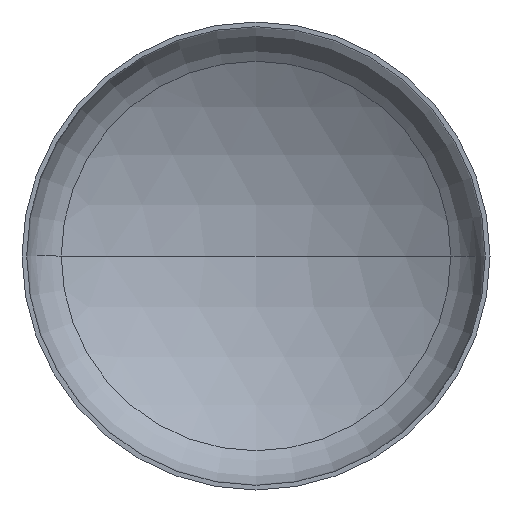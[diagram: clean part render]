
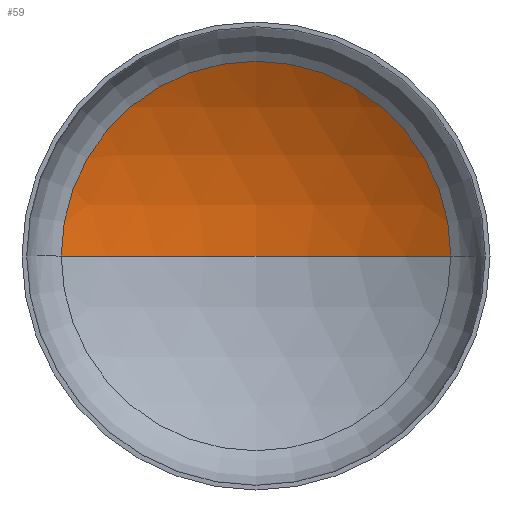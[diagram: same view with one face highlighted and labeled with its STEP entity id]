
A CAD part, front view. The second image highlights one B-rep face of the part: STEP entity #59.
In plain terms, the highlighted spherical face has radius 2080 mm.
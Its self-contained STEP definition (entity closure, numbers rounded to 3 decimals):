
#1 = ORIENTED_EDGE ( 'NONE', *, *, #363, .T. ) ;
#7 = VERTEX_POINT ( 'NONE', #225 ) ;
#16 = VERTEX_POINT ( 'NONE', #223 ) ;
#25 = VERTEX_POINT ( 'NONE', #352 ) ;
#34 = ORIENTED_EDGE ( 'NONE', *, *, #309, .T. ) ;
#40 = ORIENTED_EDGE ( 'NONE', *, *, #289, .F. ) ;
#59 = ADVANCED_FACE ( 'NONE', ( #171 ), #242, .F. ) ;
#112 = CARTESIAN_POINT ( 'NONE',  ( 0., 426.609, 0. ) ) ;
#118 = DIRECTION ( 'NONE',  ( 0., -1., 0. ) ) ;
#119 = EDGE_LOOP ( 'NONE', ( #40, #34, #1 ) ) ;
#127 = CARTESIAN_POINT ( 'NONE',  ( 0., -1349.756, 0. ) ) ;
#128 = DIRECTION ( 'NONE',  ( 0., 0., -1. ) ) ;
#132 = DIRECTION ( 'NONE',  ( -1., 0., 0. ) ) ;
#171 = FACE_OUTER_BOUND ( 'NONE', #119, .T. ) ;
#195 = CIRCLE ( 'NONE', #351, 2080. ) ;
#200 = AXIS2_PLACEMENT_3D ( 'NONE', #112, #118, #314 ) ;
#202 = CARTESIAN_POINT ( 'NONE',  ( 0., -1349.756, 0. ) ) ;
#209 = DIRECTION ( 'NONE',  ( -1., 0., 0. ) ) ;
#221 = DIRECTION ( 'NONE',  ( 0., 0., -1. ) ) ;
#223 = CARTESIAN_POINT ( 'NONE',  ( 0., 730.244, 0. ) ) ;
#225 = CARTESIAN_POINT ( 'NONE',  ( -1082.095, 426.609, 0. ) ) ;
#242 = SPHERICAL_SURFACE ( 'NONE', #386, 2080. ) ;
#252 = CIRCLE ( 'NONE', #200, 1082.095 ) ;
#265 = CIRCLE ( 'NONE', #378, 2080. ) ;
#289 = EDGE_CURVE ( 'NONE', #16, #7, #195, .T. ) ;
#309 = EDGE_CURVE ( 'NONE', #16, #25, #265, .T. ) ;
#314 = DIRECTION ( 'NONE',  ( 1., 0., 0. ) ) ;
#351 = AXIS2_PLACEMENT_3D ( 'NONE', #377, #397, #395 ) ;
#352 = CARTESIAN_POINT ( 'NONE',  ( 1082.095, 426.609, 0. ) ) ;
#363 = EDGE_CURVE ( 'NONE', #25, #7, #252, .T. ) ;
#377 = CARTESIAN_POINT ( 'NONE',  ( 0., -1349.756, 0. ) ) ;
#378 = AXIS2_PLACEMENT_3D ( 'NONE', #127, #128, #132 ) ;
#386 = AXIS2_PLACEMENT_3D ( 'NONE', #202, #221, #209 ) ;
#395 = DIRECTION ( 'NONE',  ( 1., 0., 0. ) ) ;
#397 = DIRECTION ( 'NONE',  ( 0., 0., 1. ) ) ;
